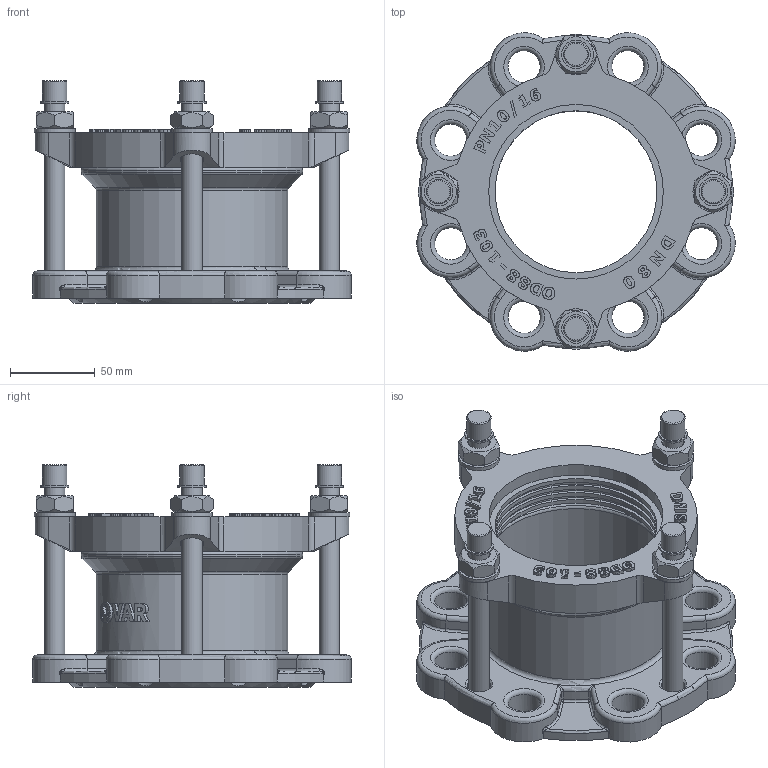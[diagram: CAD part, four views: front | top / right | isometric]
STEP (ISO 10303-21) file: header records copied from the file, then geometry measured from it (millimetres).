
FILE_DESCRIPTION(('STEP AP203'), '1');
FILE_NAME('Ôëàíöåâûé àäàïòåð', '', ('UNSPECIFIED'), ('UNSPECIFIED'), 'C3D Converter', 'C3D Toolkit', '');
FILE_SCHEMA(('CONFIG_CONTROL_DESIGN'));
Length unit declared in the file: millimetre
Assembly tree (19 placements, depth 2):
  (unnamed)
    (unnamed)
    (unnamed)  x4
    (unnamed)  x4
    (unnamed)  x4
    (unnamed)  x4
    (unnamed)
    (unnamed)
Bounding box: 187.74 x 187.74 x 131.2 mm (x, y, z)
Volume: 661090 mm3; surface area: 216955.5 mm2
Topology: 19 solids, 19 shells, 1043 faces, 2650 edges, 1650 vertices
Faces by surface type: extrusion 370, plane 312, cylinder 202, torus 71, cone 32, bspline 32, sphere 24
Full cylindrical faces by diameter (mm): 12 x12, 12.253 x1, 13 x4, 14 x8, 14.4 x4, 16.8 x4, 19 x8, 24 x4, 95.5 x5, 99.25 x3, 103 x2, 108 x1, 112 x1, 113 x1, 130.5 x1, 133 x2
Entity records: 40839 total; most frequent: CARTESIAN_POINT 15324, ORIENTED_EDGE 4570, DIRECTION 3337, EDGE_CURVE 2285, VERTEX_POINT 1494, VECTOR 1301, B_SPLINE_CURVE_WITH_KNOTS 1222, EDGE_LOOP 1089
